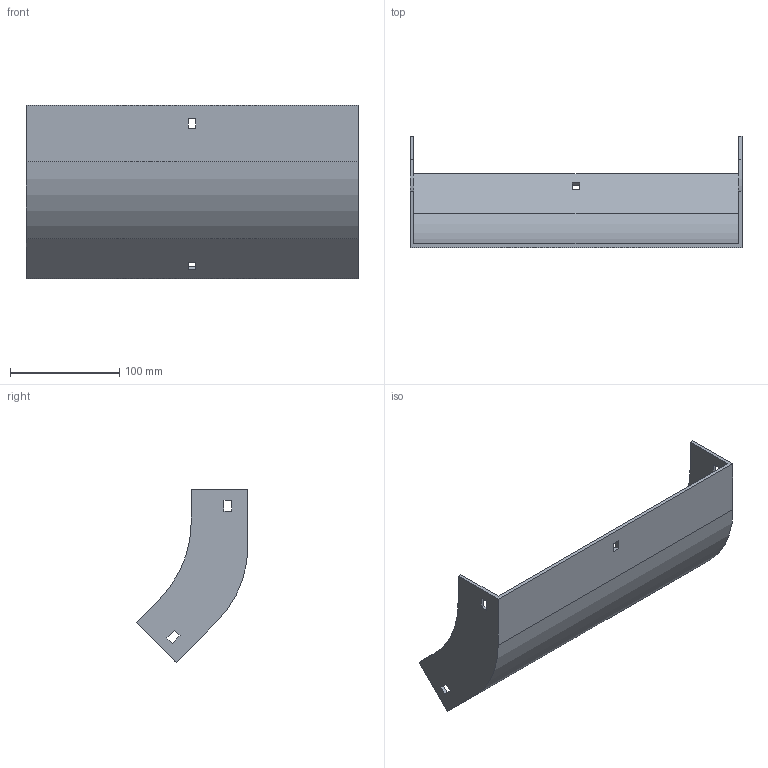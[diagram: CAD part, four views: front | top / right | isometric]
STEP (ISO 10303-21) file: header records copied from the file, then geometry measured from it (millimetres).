
FILE_DESCRIPTION (( 'STEP AP214' ), '1' );
FILE_NAME ('31F1B300.step', '2025-02-21T13:00:03', ( '' ), ( '' ), 'SwSTEP 2.0', 'SolidWorks 2023', '' );
FILE_SCHEMA (( 'AUTOMOTIVE_DESIGN' ));
Length unit declared in the file: millimetre
Products named in the file (1): 31F1B300
Bounding box: 304 x 102.5 x 158.69 mm (x, y, z)
Volume: 245808.7 mm3; surface area: 144941.5 mm2
Topology: 1 solids, 1 shells, 42 faces, 120 edges, 80 vertices
Faces by surface type: plane 38, cylinder 4
Entity records: 1399 total; most frequent: CARTESIAN_POINT 243, ORIENTED_EDGE 240, DIRECTION 214, EDGE_CURVE 120, LINE 112, VECTOR 112, VERTEX_POINT 80, EDGE_LOOP 54
